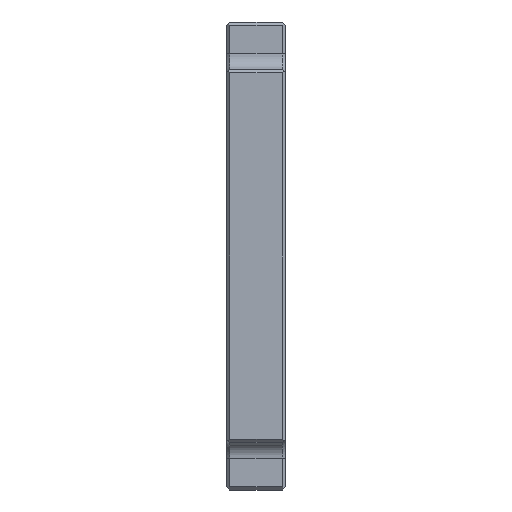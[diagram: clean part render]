
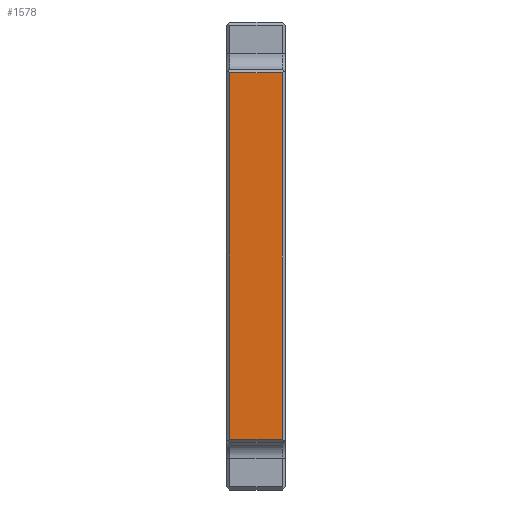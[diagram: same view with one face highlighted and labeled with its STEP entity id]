
A CAD part, left-side view. The second image highlights one B-rep face of the part: STEP entity #1578.
In plain terms, the highlighted planar face has unit normal (-1, 0, 0).
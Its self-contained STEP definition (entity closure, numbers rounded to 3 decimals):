
#151=DIRECTION('',(0.,0.,1.));
#152=VECTOR('',#151,59.706);
#153=CARTESIAN_POINT('',(-120.027,12.368,-29.585));
#154=LINE('',#153,#152);
#167=DIRECTION('',(0.,-1.,0.));
#168=VECTOR('',#167,8.525);
#169=CARTESIAN_POINT('',(-120.027,20.893,30.121));
#170=LINE('',#169,#168);
#795=DIRECTION('',(0.,0.,-1.));
#796=VECTOR('',#795,59.706);
#797=CARTESIAN_POINT('',(-120.027,20.893,30.121));
#798=LINE('',#797,#796);
#807=DIRECTION('',(0.,-1.,0.));
#808=VECTOR('',#807,8.525);
#809=CARTESIAN_POINT('',(-120.027,20.893,-29.585));
#810=LINE('',#809,#808);
#1333=CARTESIAN_POINT('',(-120.027,12.368,
-29.585));
#1334=CARTESIAN_POINT('',(-120.027,12.368,30.121));
#1335=VERTEX_POINT('',#1333);
#1336=VERTEX_POINT('',#1334);
#1339=CARTESIAN_POINT('',(-120.027,20.893,30.121));
#1340=VERTEX_POINT('',#1339);
#1341=CARTESIAN_POINT('',(-120.027,20.893,
-29.585));
#1342=VERTEX_POINT('',#1341);
#1564=CARTESIAN_POINT('',(-120.027,21.393,30.621));
#1565=DIRECTION('',(1.,0.,0.));
#1566=DIRECTION('',(0.,0.,-1.));
#1567=AXIS2_PLACEMENT_3D('',#1564,#1565,#1566);
#1568=PLANE('',#1567);
#1570=ORIENTED_EDGE('',*,*,#1569,.T.);
#1571=ORIENTED_EDGE('',*,*,#1551,.F.);
#1573=ORIENTED_EDGE('',*,*,#1572,.F.);
#1575=ORIENTED_EDGE('',*,*,#1574,.F.);
#1576=EDGE_LOOP('',(#1570,#1571,#1573,#1575));
#1577=FACE_OUTER_BOUND('',#1576,.F.);
#1578=ADVANCED_FACE('',(#1577),#1568,.F.);
#1551=EDGE_CURVE('',#1335,#1336,#154,.T.);
#1569=EDGE_CURVE('',#1340,#1336,#170,.T.);
#1572=EDGE_CURVE('',#1342,#1335,#810,.T.);
#1574=EDGE_CURVE('',#1340,#1342,#798,.T.);
